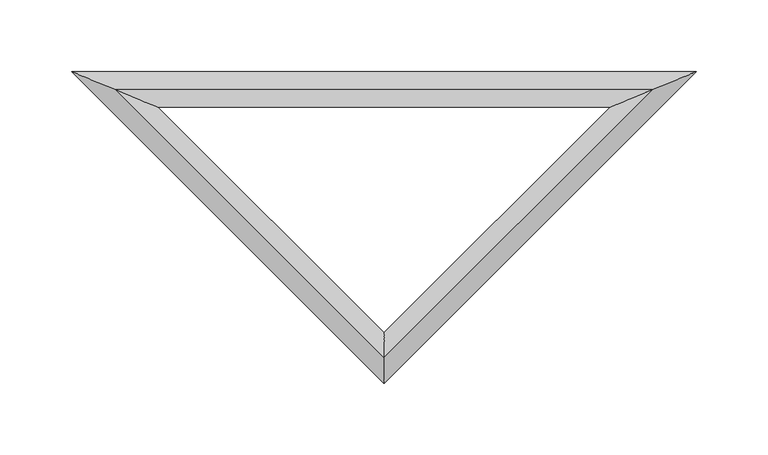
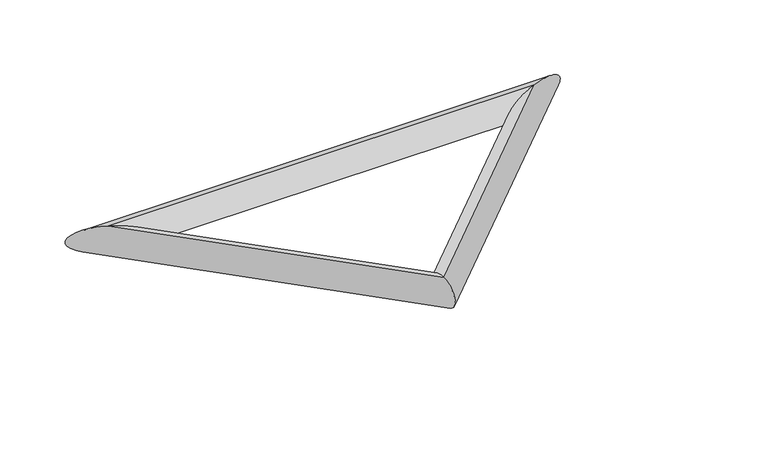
"""IFC4 building model written with IfcOpenShell, lengths in millimetres: plate geometry, ZZK PilotoBIM : ZZK PilotoBIM."""

import ifcopenshell
import ifcopenshell.guid

model = None  # the IFC model being written
_history = None  # IfcOwnerHistory: only IFC2X3 demands one
_inside = {}  # id of a spatial element -> (the spatial element, [elements in it])
_under = {}  # id of a project, library or spatial element -> (it, [spatial elements below it])
_declared = {}  # id of a project -> (the project, [libraries it declares])
_typed = {}  # id of a type object -> (the type object, [elements of that type])
_made_of = {}  # id of a material, layer set ... -> (it, [elements and type objects made of it])


def new_model(schema):
    """Start an empty IFC model of exactly this schema.

    Asked for "IFC4X3", IfcOpenShell would pick the latest addendum, in which some entities
    have other attributes; the version numbers below select the first issue.
    IFC2X3 requires an IfcOwnerHistory on every rooted entity: one is made here for all.
    """
    global model, _history
    if schema == "IFC4X3":
        model = ifcopenshell.file(schema_version=(4, 3, 0, 0))
    else:
        model = ifcopenshell.file(schema=schema)
    _inside.clear()
    _under.clear()
    _declared.clear()
    _typed.clear()
    _made_of.clear()
    _history = None
    if model.schema == "IFC2X3":
        org = make("IfcOrganization", Name="unknown")
        user = make(
            "IfcPersonAndOrganization",
            ThePerson=make("IfcPerson", FamilyName="unknown"),
            TheOrganization=org,
        )
        app = make(
            "IfcApplication",
            ApplicationDeveloper=org,
            Version="unknown",
            ApplicationFullName="unknown",
            ApplicationIdentifier="unknown",
        )
        _history = make(
            "IfcOwnerHistory",
            OwningUser=user,
            OwningApplication=app,
            ChangeAction="ADDED",
            CreationDate=0,
        )
    return model


def make(cls, **values):
    """One entity of the class cls with the attributes given. An attribute that is None is left unset."""
    return model.create_entity(
        cls, **{name: value for name, value in values.items() if value is not None}
    )


def rooted(cls, **values):
    """An entity with a GlobalId (a new one), such as an element, a storey or a relation."""
    return make(cls, GlobalId=ifcopenshell.guid.new(), OwnerHistory=_history, **values)


def si_unit(unit_type, name, prefix=None):
    """IfcSIUnit, for example si_unit("LENGTHUNIT", "METRE", prefix="MILLI")."""
    return make("IfcSIUnit", UnitType=unit_type, Prefix=prefix, Name=name)


def assignment(units):
    """IfcUnitAssignment: the units of a project."""
    return None if units is None else make("IfcUnitAssignment", Units=units)


def point(xyz):
    """IfcCartesianPoint."""
    return None if xyz is None else make("IfcCartesianPoint", Coordinates=xyz)


def direction(xyz):
    """IfcDirection."""
    return None if xyz is None else make("IfcDirection", DirectionRatios=xyz)


def frame(location, z_axis=None, x_axis=None):
    """IfcAxis2Placement3D, a coordinate frame: its origin and axes. An axis left out is left unset."""
    return make(
        "IfcAxis2Placement3D",
        Location=point(location),
        Axis=direction(z_axis),
        RefDirection=direction(x_axis),
    )


def origin():
    """The frame at (0, 0, 0) with its axes left unset."""
    return frame((0.0, 0.0, 0.0))


def place(relative_to, where):
    """IfcLocalPlacement: puts the frame where relative to a parent placement (None: the world)."""
    return make(
        "IfcLocalPlacement", PlacementRelTo=relative_to, RelativePlacement=where
    )


def context(
    kind, dimensions, precision=None, world=None, true_north=None, identifier=None
):
    """IfcGeometricRepresentationContext, for example the 3D "Model" context."""
    return make(
        "IfcGeometricRepresentationContext",
        ContextIdentifier=identifier,
        ContextType=kind,
        CoordinateSpaceDimension=dimensions,
        Precision=precision,
        WorldCoordinateSystem=world,
        TrueNorth=true_north,
    )


def project(units=None, contexts=None):
    """IfcProject with its units and contexts."""
    return rooted(
        "IfcProject",
        Name="project",
        RepresentationContexts=contexts,
        UnitsInContext=assignment(units),
    )


def spatial(cls, under=None, at=None, **own):
    """A site, building, storey or space (cls), placed at a placement, below another one or the project."""
    s = rooted(cls, ObjectPlacement=at, **own)
    if under is not None:
        _under.setdefault(under.id(), (under, []))[1].append(s)
    return s


def ellipse_curve(where, semi_axis1, semi_axis2):
    """IfcEllipse in the frame where."""
    return make(
        "IfcEllipse", Position=where, SemiAxis1=semi_axis1, SemiAxis2=semi_axis2
    )


def shape(context_of_items, identifier, shape_type, items):
    """IfcShapeRepresentation: the items that make up one representation, for example the "Body"."""
    return make(
        "IfcShapeRepresentation",
        ContextOfItems=context_of_items,
        RepresentationIdentifier=identifier,
        RepresentationType=shape_type,
        Items=items,
    )


def source(mapping_origin, context_of_items, identifier, shape_type, items):
    """IfcRepresentationMap: a shape defined once, which mapped items show again and again."""
    return make(
        "IfcRepresentationMap",
        MappingOrigin=mapping_origin,
        MappedRepresentation=shape(context_of_items, identifier, shape_type, items),
    )


def transform(
    local_origin,
    x_axis=None,
    y_axis=None,
    z_axis=None,
    scale=None,
    scale2=None,
    scale3=None,
    uniform=True,
):
    """IfcCartesianTransformationOperator3D, or its non-uniform kind. x_axis, y_axis, z_axis: its Axis1, 2, 3."""
    if uniform:
        return make(
            "IfcCartesianTransformationOperator3D",
            Axis1=direction(x_axis),
            Axis2=direction(y_axis),
            LocalOrigin=point(local_origin),
            Scale=scale,
            Axis3=direction(z_axis),
        )
    return make(
        "IfcCartesianTransformationOperator3DnonUniform",
        Axis1=direction(x_axis),
        Axis2=direction(y_axis),
        LocalOrigin=point(local_origin),
        Scale=scale,
        Axis3=direction(z_axis),
        Scale2=scale2,
        Scale3=scale3,
    )


def mapped(mapping_source, mapping_target):
    """IfcMappedItem: shows the shape of a source again, moved by a transform."""
    return make(
        "IfcMappedItem", MappingSource=mapping_source, MappingTarget=mapping_target
    )


def made_of(thing, what):
    """Note that an element or type object is made of a material, layer set ...; save() writes the relation."""
    if what is not None:
        _made_of.setdefault(what.id(), (what, []))[1].append(thing)
    return thing


def element(
    cls,
    number,
    at=None,
    inside=None,
    cuts=None,
    type_object=None,
    material=None,
    context=None,
    identifier="Body",
    shape_type=None,
    held_by="IfcProductDefinitionShape",
    body=None,
    shapes=None,
    **own,
):
    """One element of the class cls, such as IfcWall. Its Tag is "e" and its number.

    at: its placement. inside: the storey or other place that contains it. cuts: it is an
    opening in that element (IfcRelVoidsElement). A single representation is given by context,
    identifier, shape_type and body (its items); several are given by shapes. held_by: the class
    of the entity that holds the representations. save() writes the other relations.
    """
    e = rooted(cls, Tag="e%d" % number, ObjectPlacement=at, **own)
    if body is not None:
        shapes = [shape(context, identifier, shape_type, body)]
    if shapes is not None:
        e.Representation = make(held_by, Representations=shapes)
    if inside is not None:
        _inside.setdefault(inside.id(), (inside, []))[1].append(e)
    if cuts is not None:
        rooted(
            "IfcRelVoidsElement", RelatingBuildingElement=cuts, RelatedOpeningElement=e
        )
    if type_object is not None:
        _typed.setdefault(type_object.id(), (type_object, []))[1].append(e)
    return made_of(e, material)


def aggregate(whole, parts):
    """IfcRelAggregates: a whole, such as a stair, and the parts it consists of."""
    return rooted("IfcRelAggregates", RelatingObject=whole, RelatedObjects=parts)


def save(model, path):
    """Write the relations noted so far, then the file.

    IfcRelAggregates (storeys below a building ...), IfcRelContainedInSpatialStructure (elements
    in a storey), IfcRelDefinesByType, IfcRelAssociatesMaterial and IfcRelDeclares: one each for
    every whole, place, type object, material and project.
    """
    for whole, parts in _under.values():
        aggregate(whole, parts)
    for where, things in _inside.values():
        rooted(
            "IfcRelContainedInSpatialStructure",
            RelatedElements=things,
            RelatingStructure=where,
        )
    for kind, things in _typed.values():
        rooted("IfcRelDefinesByType", RelatedObjects=things, RelatingType=kind)
    for what, things in _made_of.values():
        rooted("IfcRelAssociatesMaterial", RelatedObjects=things, RelatingMaterial=what)
    for by, libraries in _declared.values():
        rooted("IfcRelDeclares", RelatingContext=by, RelatedDefinitions=libraries)
    model.write(path)


def cylinder_surface(at, radius):
    """IfcCylindricalSurface: all points at the distance radius from the z axis of the frame at."""
    return make("IfcCylindricalSurface", Position=at, Radius=radius)


def advanced_brep(points, edges, surfaces, faces):
    """IfcAdvancedBrep: a solid bounded by faces that lie on surfaces and meet in shared edges.

    An edge is (start, end): straight between two places in points (the first is 0);
    or (start, end, curve); or (start, end, curve, False) where it runs against its curve.
    A face is (place in surfaces, loops), or (place, loops, False) where it looks against
    its surface's normal. A loop lists edges by number (the first is 1), with a minus sign
    where the edge is run from its end to its start. The first loop is the outer one.
    """
    corners = [point(p) for p in points]
    vertices = [make("IfcVertexPoint", VertexGeometry=c) for c in corners]
    made = []
    for start, end, *more in edges:
        made.append(
            make(
                "IfcEdgeCurve",
                EdgeStart=vertices[start],
                EdgeEnd=vertices[end],
                EdgeGeometry=more[0] if more else make("IfcPolyline", Points=[corners[start], corners[end]]),
                SameSense=more[1] if len(more) > 1 else True,
            )
        )
    hull = []
    for where, loops, *sense in faces:
        bounds = []
        for j, loop in enumerate(loops):
            ring = [make("IfcOrientedEdge", EdgeElement=made[abs(k) - 1], Orientation=k > 0) for k in loop]
            bounds.append(
                make(
                    "IfcFaceOuterBound" if j == 0 else "IfcFaceBound",
                    Bound=make("IfcEdgeLoop", EdgeList=ring),
                    Orientation=True,
                )
            )
        hull.append(make("IfcAdvancedFace", Bounds=bounds, FaceSurface=surfaces[where], SameSense=sense[0] if sense else True))
    return make("IfcAdvancedBrep", Outer=make("IfcClosedShell", CfsFaces=hull))


def plate_190a94d3(model_context):
    return source(origin(), model_context, "Body", "AdvancedBrep", [
        advanced_brep(
        [(6284.2545247, 5142.6661728, 12.5), (6284.2545247, 5142.6661728, -12.5), (5907.7454753, 5142.6661728, -12.5), (5907.7454753, 5142.6661728, 12.5), (6096.0, 4954.6676545, -12.5), (6096.0, 4954.6676545, 12.5)],
        [
            (0, 1, ellipse_curve(frame((6284.2545247, 5142.6661728, 0.0), z_axis=(-0.38236910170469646, 0.9240096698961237, 0.0), x_axis=(0.9240096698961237, 0.38236910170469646, 0.0)), 32.690926, 12.5)),
            (1, 2),
            (2, 3, ellipse_curve(frame((5907.7454753, 5142.6661728, 0.0), z_axis=(0.3823691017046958, 0.9240096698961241, 0.0), x_axis=(0.924009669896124, -0.3823691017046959, 0.0)), 32.690926, 12.5)),
            (3, 0),
            (1, 0, ellipse_curve(frame((6284.2545247, 5142.6661728, 0.0), z_axis=(-0.38236910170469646, 0.9240096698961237, 0.0), x_axis=(0.9240096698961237, 0.38236910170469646, 0.0)), 32.690926, 12.5)),
            (3, 2, ellipse_curve(frame((5907.7454753, 5142.6661728, 0.0), z_axis=(0.3823691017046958, 0.9240096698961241, 0.0), x_axis=(0.924009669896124, -0.3823691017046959, 0.0)), 32.690926, 12.5)),
            (2, 4),
            (4, 5, ellipse_curve(frame((6096.0, 4954.6676545, 0.0), z_axis=(-1.0, 0.0, 0.0), x_axis=(0.0, 1.0, 0.0)), 17.6656537, 12.5)),
            (5, 3),
            (5, 4, ellipse_curve(frame((6096.0, 4954.6676545, 0.0), z_axis=(-1.0, 0.0, 0.0), x_axis=(0.0, 1.0, 0.0)), 17.6656537, 12.5)),
            (4, 1),
            (0, 5),
        ],
        [
            cylinder_surface(frame((6284.2545247, 5142.6661728, 0.0), z_axis=(1.0, 0.0, 0.0), x_axis=(0.0, 1.0, 0.0)), 12.5),
            cylinder_surface(frame((5907.7454753, 5142.6661728, 0.0), z_axis=(-0.7075877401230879, 0.7066254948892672, 0.0), x_axis=(-0.7066254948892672, -0.7075877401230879, 0.0)), 12.5),
            cylinder_surface(frame((6096.0, 4954.6676545, 0.0), z_axis=(-0.7075877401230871, -0.706625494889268, 0.0), x_axis=(0.706625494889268, -0.7075877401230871, 0.0)), 12.5),
        ],
        [
            (0, [[1, 2, 3, 4]]),
            (0, [[5, -4, 6, -2]]),
            (1, [[-3, 7, 8, 9]]),
            (1, [[-6, -9, 10, -7]]),
            (2, [[-8, 11, -1, 12]]),
            (2, [[-10, -12, -5, -11]]),
        ],
    ),
    ])


if __name__ == "__main__":
    model = new_model("IFC4")
    model_context = context("Model", 3, world=origin())
    ifc_project = project(units=[si_unit("LENGTHUNIT", "METRE", prefix="MILLI")], contexts=[model_context])
    site = spatial("IfcSite", under=ifc_project)
    building = spatial("IfcBuilding", under=site)
    placement = place(None, origin())
    plate_shape = plate_190a94d3(model_context)
    element("IfcPlate", 1, ObjectType="ZZK PilotoBIM : ZZK PilotoBIM", at=placement, inside=building, context=model_context, shape_type="MappedRepresentation", body=[
        mapped(plate_shape, transform((0.0, 0.0, 0.0), x_axis=(1.0, 0.0, 0.0), y_axis=(0.0, 1.0, 0.0), z_axis=(0.0, 0.0, 1.0))),
    ])
    save(model, "model.ifc")
